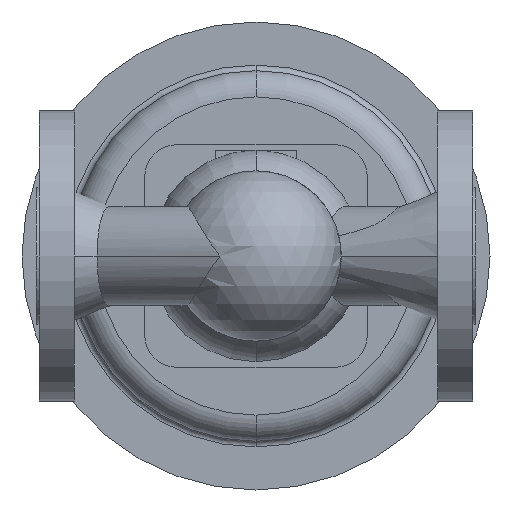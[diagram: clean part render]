
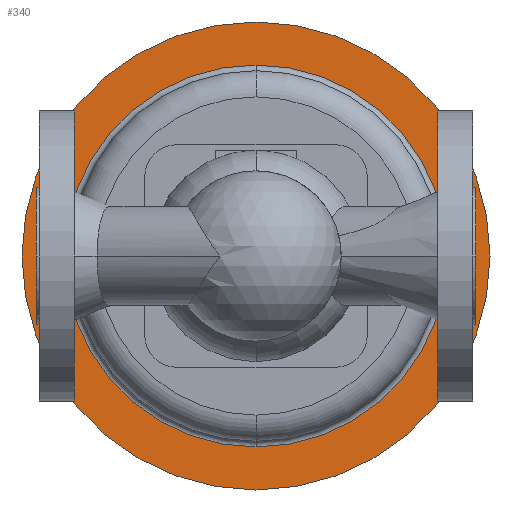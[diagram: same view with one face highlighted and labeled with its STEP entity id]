
A CAD part, front view. The second image highlights one B-rep face of the part: STEP entity #340.
In plain terms, the highlighted planar face has unit normal (0, -1, 0).
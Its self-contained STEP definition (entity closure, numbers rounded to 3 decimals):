
#340 = ADVANCED_FACE( '', ( #827, #828 ), #829, .T. );
#827 = FACE_OUTER_BOUND( '', #1323, .T. );
#828 = FACE_BOUND( '', #1324, .T. );
#829 = PLANE( '', #1325 );
#1323 = EDGE_LOOP( '', ( #3095, #3096 ) );
#1324 = EDGE_LOOP( '', ( #3097, #3098, #3099 ) );
#1325 = AXIS2_PLACEMENT_3D( '', #3100, #3101, #3102 );
#3095 = ORIENTED_EDGE( '', *, *, #3544, .F. );
#3096 = ORIENTED_EDGE( '', *, *, #3715, .F. );
#3097 = ORIENTED_EDGE( '', *, *, #3713, .T. );
#3098 = ORIENTED_EDGE( '', *, *, #3551, .T. );
#3099 = ORIENTED_EDGE( '', *, *, #3714, .T. );
#3100 = CARTESIAN_POINT( '', ( 231., 647.5, 0. ) );
#3101 = DIRECTION( '', ( 0., -1., 0. ) );
#3102 = DIRECTION( '', ( -1., 0., 0. ) );
#3544 = EDGE_CURVE( '', #4377, #4380, #4381, .T. );
#3551 = EDGE_CURVE( '', #4386, #4392, #4394, .T. );
#3713 = EDGE_CURVE( '', #4663, #4386, #4664, .T. );
#3714 = EDGE_CURVE( '', #4392, #4663, #4665, .T. );
#3715 = EDGE_CURVE( '', #4380, #4377, #4666, .T. );
#4377 = VERTEX_POINT( '', #6288 );
#4380 = VERTEX_POINT( '', #6292 );
#4381 = CIRCLE( '', #6293, 125. );
#4386 = VERTEX_POINT( '', #6299 );
#4392 = VERTEX_POINT( '', #6305 );
#4394 = CIRCLE( '', #6307, 102. );
#4663 = VERTEX_POINT( '', #6645 );
#4664 = CIRCLE( '', #6646, 102. );
#4665 = CIRCLE( '', #6647, 102. );
#4666 = CIRCLE( '', #6648, 125. );
#6288 = CARTESIAN_POINT( '', ( 242.5, 647.5, 0. ) );
#6292 = CARTESIAN_POINT( '', ( -7.5, 647.5, 0. ) );
#6293 = AXIS2_PLACEMENT_3D( '', #7384, #7385, #7386 );
#6299 = CARTESIAN_POINT( '', ( 117.5, 647.5, -102. ) );
#6305 = CARTESIAN_POINT( '', ( 117.5, 647.5, 102. ) );
#6307 = AXIS2_PLACEMENT_3D( '', #7403, #7404, #7405 );
#6645 = CARTESIAN_POINT( '', ( 219.5, 647.5, 0. ) );
#6646 = AXIS2_PLACEMENT_3D( '', #7751, #7752, #7753 );
#6647 = AXIS2_PLACEMENT_3D( '', #7754, #7755, #7756 );
#6648 = AXIS2_PLACEMENT_3D( '', #7757, #7758, #7759 );
#7384 = CARTESIAN_POINT( '', ( 117.5, 647.5, 0. ) );
#7385 = DIRECTION( '', ( 0., 1., 0. ) );
#7386 = DIRECTION( '', ( 1., 0., 0. ) );
#7403 = CARTESIAN_POINT( '', ( 117.5, 647.5, 0. ) );
#7404 = DIRECTION( '', ( 0., 1., 0. ) );
#7405 = DIRECTION( '', ( 1., 0., 0. ) );
#7751 = CARTESIAN_POINT( '', ( 117.5, 647.5, 0. ) );
#7752 = DIRECTION( '', ( 0., 1., 0. ) );
#7753 = DIRECTION( '', ( 1., 0., 0. ) );
#7754 = CARTESIAN_POINT( '', ( 117.5, 647.5, 0. ) );
#7755 = DIRECTION( '', ( 0., 1., 0. ) );
#7756 = DIRECTION( '', ( 1., 0., 0. ) );
#7757 = CARTESIAN_POINT( '', ( 117.5, 647.5, 0. ) );
#7758 = DIRECTION( '', ( 0., 1., 0. ) );
#7759 = DIRECTION( '', ( 1., 0., 0. ) );
